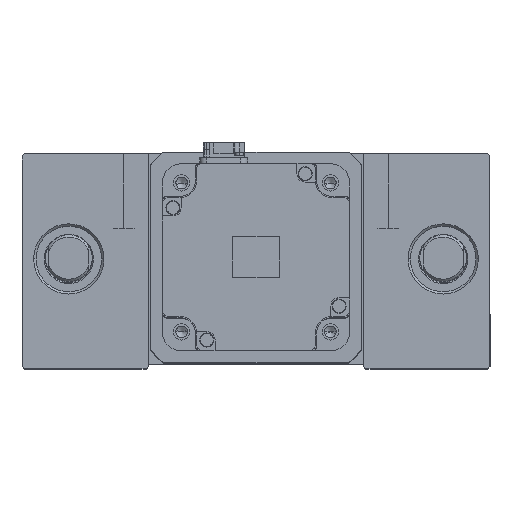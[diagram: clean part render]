
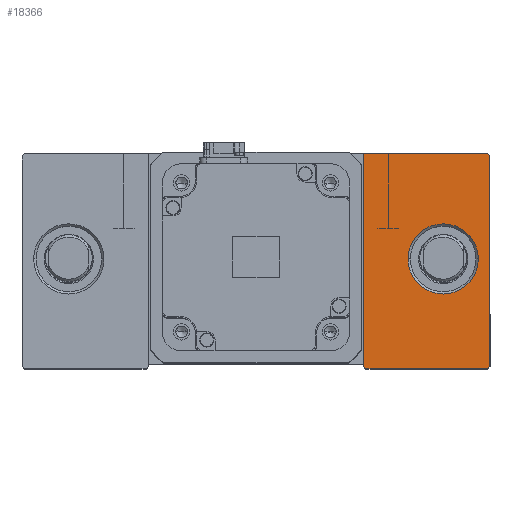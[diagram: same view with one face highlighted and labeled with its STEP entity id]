
A CAD part, top view. The second image highlights one B-rep face of the part: STEP entity #18366.
In plain terms, the highlighted planar face has unit normal (0, 0, 1).
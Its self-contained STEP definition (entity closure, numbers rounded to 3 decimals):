
#547 = CARTESIAN_POINT ( 'NONE',  ( 46., 45., 35. ) ) ;
#1955 = LINE ( 'NONE', #26625, #31639 ) ;
#1996 = CARTESIAN_POINT ( 'NONE',  ( 0., 0., 35. ) ) ;
#2549 = DIRECTION ( 'NONE',  ( 1., 0., 0. ) ) ;
#3222 = EDGE_CURVE ( 'NONE', #24137, #12278, #43971, .T. ) ;
#4560 = CARTESIAN_POINT ( 'NONE',  ( 46., 45., 35. ) ) ;
#4883 = ORIENTED_EDGE ( 'NONE', *, *, #35016, .T. ) ;
#5608 = CARTESIAN_POINT ( 'NONE',  ( 73., -73., 35. ) ) ;
#6206 = EDGE_CURVE ( 'NONE', #45969, #11615, #31843, .T. ) ;
#6715 = ORIENTED_EDGE ( 'NONE', *, *, #21513, .T. ) ;
#7422 = DIRECTION ( 'NONE',  ( -0.707, 0.707, 0. ) ) ;
#8425 = DIRECTION ( 'NONE',  ( 0., -1., 0. ) ) ;
#8847 = LINE ( 'NONE', #48185, #38586 ) ;
#10841 = CIRCLE ( 'NONE', #17993, 15. ) ;
#10911 = CARTESIAN_POINT ( 'NONE',  ( 47., -47., 35. ) ) ;
#11170 = CARTESIAN_POINT ( 'NONE',  ( 99., -47., 35. ) ) ;
#11615 = VERTEX_POINT ( 'NONE', #48719 ) ;
#11709 = VECTOR ( 'NONE', #8425, 1000. ) ;
#12278 = VERTEX_POINT ( 'NONE', #44712 ) ;
#13408 = CARTESIAN_POINT ( 'NONE',  ( 100., -46., 35. ) ) ;
#13655 = PLANE ( 'NONE',  #42518 ) ;
#14723 = LINE ( 'NONE', #5608, #43290 ) ;
#16725 = FACE_BOUND ( 'NONE', #35838, .T. ) ;
#16795 = DIRECTION ( 'NONE',  ( 0., 0., -1. ) ) ;
#16959 = ORIENTED_EDGE ( 'NONE', *, *, #6206, .T. ) ;
#17540 = DIRECTION ( 'NONE',  ( 1., 0., 0. ) ) ;
#17993 = AXIS2_PLACEMENT_3D ( 'NONE', #49053, #25747, #2549 ) ;
#18004 = CARTESIAN_POINT ( 'NONE',  ( 100., 45., 35. ) ) ;
#18346 = CARTESIAN_POINT ( 'NONE',  ( 46., 45., 35. ) ) ;
#18366 = ADVANCED_FACE ( 'NONE', ( #16725, #46533 ), #13655, .T. ) ;
#18970 = DIRECTION ( 'NONE',  ( 0.707, -0.707, 0. ) ) ;
#19602 = EDGE_CURVE ( 'NONE', #11615, #40942, #49516, .T. ) ;
#20968 = DIRECTION ( 'NONE',  ( 1., 0., 0. ) ) ;
#21440 = ORIENTED_EDGE ( 'NONE', *, *, #48808, .T. ) ;
#21513 = EDGE_CURVE ( 'NONE', #44395, #30142, #1955, .T. ) ;
#22623 = EDGE_LOOP ( 'NONE', ( #21440, #6715, #28301, #30466, #16959, #32517, #4883 ) ) ;
#23226 = LINE ( 'NONE', #4560, #11709 ) ;
#24137 = VERTEX_POINT ( 'NONE', #26962 ) ;
#24191 = VECTOR ( 'NONE', #35672, 1000. ) ;
#25561 = EDGE_CURVE ( 'NONE', #12278, #24137, #10841, .T. ) ;
#25747 = DIRECTION ( 'NONE',  ( 0., 0., -1. ) ) ;
#26625 = CARTESIAN_POINT ( 'NONE',  ( 0., 0., 35. ) ) ;
#26962 = CARTESIAN_POINT ( 'NONE',  ( 95., 0., 35. ) ) ;
#28301 = ORIENTED_EDGE ( 'NONE', *, *, #36938, .T. ) ;
#29790 = ORIENTED_EDGE ( 'NONE', *, *, #25561, .T. ) ;
#30142 = VERTEX_POINT ( 'NONE', #10911 ) ;
#30466 = ORIENTED_EDGE ( 'NONE', *, *, #38591, .T. ) ;
#30619 = VECTOR ( 'NONE', #37379, 1000. ) ;
#31639 = VECTOR ( 'NONE', #18970, 1000. ) ;
#31843 = LINE ( 'NONE', #18004, #30619 ) ;
#32517 = ORIENTED_EDGE ( 'NONE', *, *, #19602, .T. ) ;
#34517 = LINE ( 'NONE', #547, #24191 ) ;
#35016 = EDGE_CURVE ( 'NONE', #40942, #37732, #34517, .T. ) ;
#35672 = DIRECTION ( 'NONE',  ( -1., 0., 0. ) ) ;
#35838 = EDGE_LOOP ( 'NONE', ( #38061, #29790 ) ) ;
#36938 = EDGE_CURVE ( 'NONE', #30142, #43391, #8847, .T. ) ;
#37379 = DIRECTION ( 'NONE',  ( 0., 1., 0. ) ) ;
#37732 = VERTEX_POINT ( 'NONE', #18346 ) ;
#37936 = VECTOR ( 'NONE', #7422, 1000. ) ;
#38061 = ORIENTED_EDGE ( 'NONE', *, *, #3222, .T. ) ;
#38165 = CARTESIAN_POINT ( 'NONE',  ( 46., -46., 35. ) ) ;
#38296 = CARTESIAN_POINT ( 'NONE',  ( 72., 72., 35. ) ) ;
#38586 = VECTOR ( 'NONE', #20968, 1000. ) ;
#38591 = EDGE_CURVE ( 'NONE', #43391, #45969, #14723, .T. ) ;
#39263 = CARTESIAN_POINT ( 'NONE',  ( 99., 45., 35. ) ) ;
#39576 = AXIS2_PLACEMENT_3D ( 'NONE', #40072, #16795, #43998 ) ;
#40072 = CARTESIAN_POINT ( 'NONE',  ( 80., 0., 35. ) ) ;
#40835 = DIRECTION ( 'NONE',  ( 0., 0., 1. ) ) ;
#40942 = VERTEX_POINT ( 'NONE', #39263 ) ;
#42518 = AXIS2_PLACEMENT_3D ( 'NONE', #1996, #40835, #17540 ) ;
#43290 = VECTOR ( 'NONE', #48369, 1000. ) ;
#43391 = VERTEX_POINT ( 'NONE', #11170 ) ;
#43971 = CIRCLE ( 'NONE', #39576, 15. ) ;
#43998 = DIRECTION ( 'NONE',  ( 1., 0., 0. ) ) ;
#44395 = VERTEX_POINT ( 'NONE', #38165 ) ;
#44712 = CARTESIAN_POINT ( 'NONE',  ( 65., 0., 35. ) ) ;
#45969 = VERTEX_POINT ( 'NONE', #13408 ) ;
#46533 = FACE_OUTER_BOUND ( 'NONE', #22623, .T. ) ;
#48185 = CARTESIAN_POINT ( 'NONE',  ( 46., -47., 35. ) ) ;
#48369 = DIRECTION ( 'NONE',  ( 0.707, 0.707, 0. ) ) ;
#48719 = CARTESIAN_POINT ( 'NONE',  ( 100., 44., 35. ) ) ;
#48808 = EDGE_CURVE ( 'NONE', #37732, #44395, #23226, .T. ) ;
#49053 = CARTESIAN_POINT ( 'NONE',  ( 80., 0., 35. ) ) ;
#49516 = LINE ( 'NONE', #38296, #37936 ) ;
